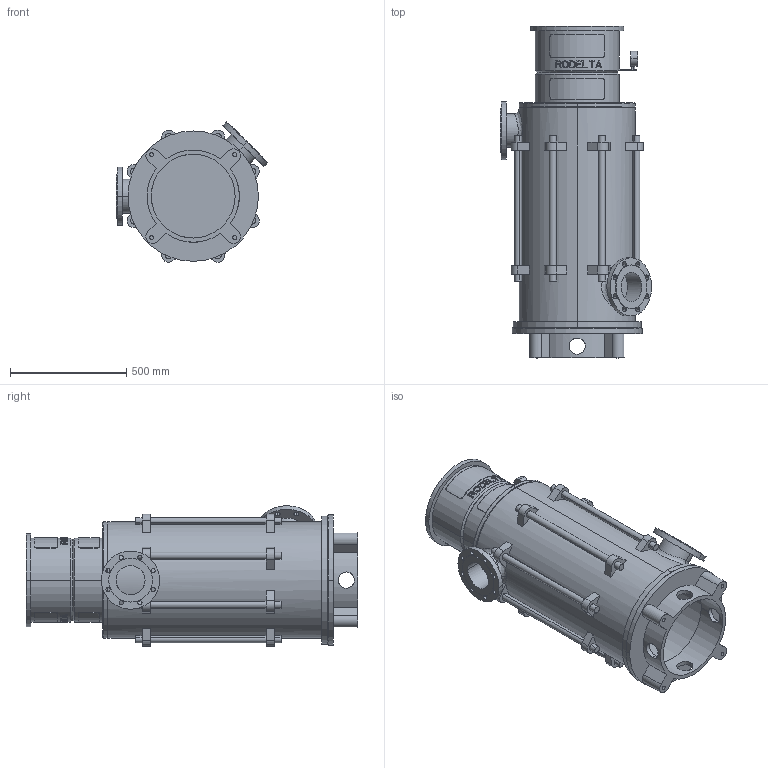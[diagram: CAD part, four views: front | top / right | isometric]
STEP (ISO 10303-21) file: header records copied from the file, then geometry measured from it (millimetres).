
FILE_DESCRIPTION((''),'2;1');
FILE_NAME('LS5_5TR_0GR_TOT_30KW','2023-08-08T',('Lyritlocal'),(''),'PRO/ENGINEER BY PARAMETRIC TECHNOLOGY CORPORATION, 2016360','PRO/ENGINEER BY PARAMETRIC TECHNOLOGY CORPORATION, 2016360','');
FILE_SCHEMA(('CONFIG_CONTROL_DESIGN'));
Length unit declared in the file: millimetre
Products named in the file (1): LS5_5TR_0GR_TOT_30KW
Bounding box: 649.61 x 1426 x 603.65 mm (x, y, z)
Volume: 40130400.6 mm3; surface area: 5860043.5 mm2
Topology: 3 solids, 7 shells, 672 faces, 1747 edges, 1158 vertices
Faces by surface type: plane 414, cylinder 242, cone 12, bspline 4
Entity records: 22084 total; most frequent: CARTESIAN_POINT 5640, ORIENTED_EDGE 3478, DIRECTION 3269, EDGE_CURVE 1747, AXIS2_PLACEMENT_3D 1241, VERTEX_POINT 1158, EDGE_LOOP 809, VECTOR 787
